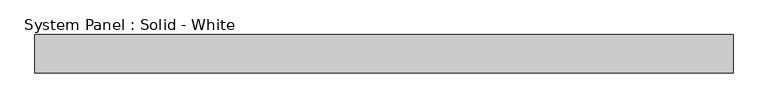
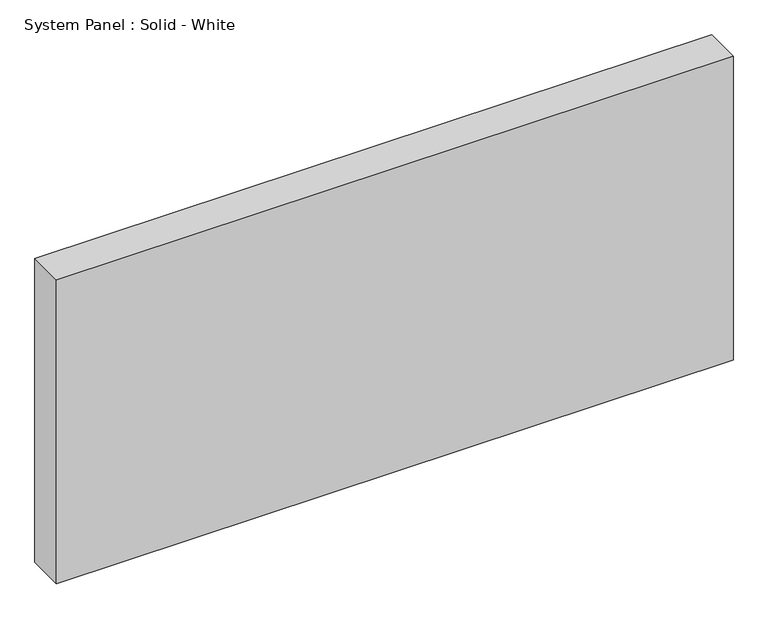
"""IFC4 building model written with IfcOpenShell, lengths in millimetres: plate geometry, System Panel : Solid - White."""

from ifc_helpers import new_model, si_unit, origin, origin_with_axes, place, context, project, spatial, polyline, outline, extrude, source, transform, mapped, element, save


def system_panel_solid_white_6decfe58(model_context):
    return source(origin(), model_context, "Body", "SweptSolid", [
        extrude(outline(polyline([(575.3100001, -19.05), (-575.3100001, -19.05), (-575.3100001, 44.45), (575.3100001, 44.45), (575.3100001, -19.05)])), origin_with_axes(), (0.0, 0.0, 1.0), 546.1),
    ])


if __name__ == "__main__":
    model = new_model("IFC4")
    model_context = context("Model", 3, world=origin())
    ifc_project = project(units=[si_unit("LENGTHUNIT", "METRE", prefix="MILLI")], contexts=[model_context])
    site = spatial("IfcSite", under=ifc_project)
    building = spatial("IfcBuilding", under=site)
    placement = place(None, origin())
    system_panel_solid_white_shape = system_panel_solid_white_6decfe58(model_context)
    element("IfcPlate", 1, ObjectType="System Panel : Solid - White", at=placement, inside=building, context=model_context, shape_type="MappedRepresentation", body=[
        mapped(system_panel_solid_white_shape, transform((0.0, 0.0, 0.0), x_axis=(1.0, 0.0, 0.0), y_axis=(0.0, 1.0, 0.0), z_axis=(0.0, 0.0, 1.0))),
    ])
    save(model, "model.ifc")
